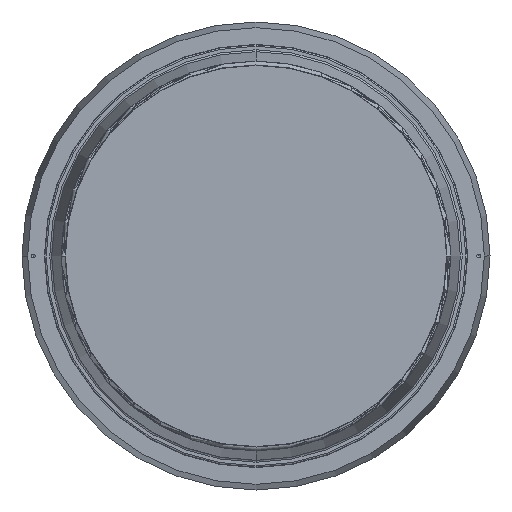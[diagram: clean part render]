
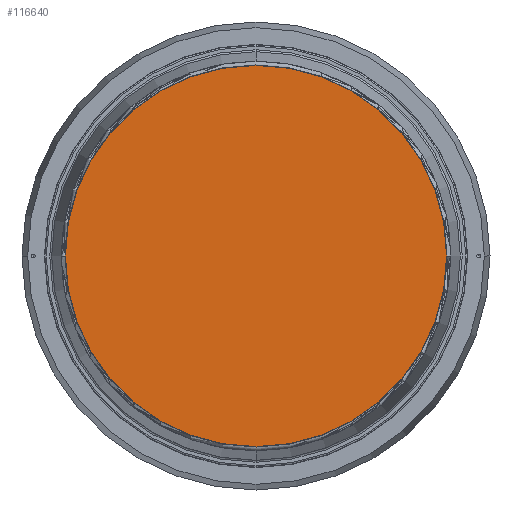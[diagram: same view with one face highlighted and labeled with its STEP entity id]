
A CAD part, front view. The second image highlights one B-rep face of the part: STEP entity #116640.
In plain terms, the highlighted planar face has unit normal (0, -1, 0).
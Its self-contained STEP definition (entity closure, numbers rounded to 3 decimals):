
#16398 = CARTESIAN_POINT ( 'NONE',  ( 0., 0., 0. ) ) ;
#19963 = DIRECTION ( 'NONE',  ( 0., 1., 0. ) ) ;
#25917 = DIRECTION ( 'NONE',  ( 0., 0., -1. ) ) ;
#31293 = EDGE_CURVE ( 'NONE', #80214, #66257, #51938, .T. ) ;
#32255 = ORIENTED_EDGE ( 'NONE', *, *, #31293, .T. ) ;
#49172 = DIRECTION ( 'NONE',  ( 0., -1., 0. ) ) ;
#49870 = ORIENTED_EDGE ( 'NONE', *, *, #111100, .T. ) ;
#51938 = CIRCLE ( 'NONE', #84594, 500.958 ) ;
#53902 = AXIS2_PLACEMENT_3D ( 'NONE', #16398, #82848, #25917 ) ;
#66257 = VERTEX_POINT ( 'NONE', #68395 ) ;
#66840 = PLANE ( 'NONE',  #83521 ) ;
#68395 = CARTESIAN_POINT ( 'NONE',  ( 500.958, 0., 0. ) ) ;
#71400 = FACE_OUTER_BOUND ( 'NONE', #112098, .T. ) ;
#76824 = CARTESIAN_POINT ( 'NONE',  ( -502.042, 0., 500000. ) ) ;
#80214 = VERTEX_POINT ( 'NONE', #87034 ) ;
#82848 = DIRECTION ( 'NONE',  ( 0., -1., 0. ) ) ;
#83521 = AXIS2_PLACEMENT_3D ( 'NONE', #76824, #19963, #86446 ) ;
#84594 = AXIS2_PLACEMENT_3D ( 'NONE', #106271, #49172, #115864 ) ;
#86446 = DIRECTION ( 'NONE',  ( 0., 0., 1. ) ) ;
#87034 = CARTESIAN_POINT ( 'NONE',  ( -500.958, 0., 0. ) ) ;
#106271 = CARTESIAN_POINT ( 'NONE',  ( 0., 0., 0. ) ) ;
#111100 = EDGE_CURVE ( 'NONE', #66257, #80214, #116809, .T. ) ;
#112098 = EDGE_LOOP ( 'NONE', ( #49870, #32255 ) ) ;
#115864 = DIRECTION ( 'NONE',  ( 0., 0., -1. ) ) ;
#116640 = ADVANCED_FACE ( 'NONE', ( #71400 ), #66840, .F. ) ;
#116809 = CIRCLE ( 'NONE', #53902, 500.958 ) ;
